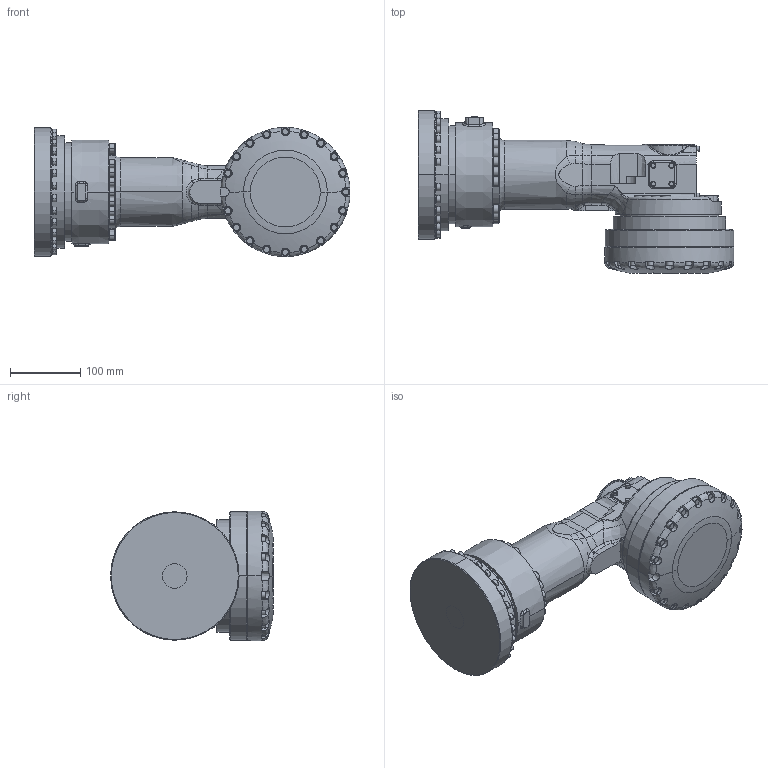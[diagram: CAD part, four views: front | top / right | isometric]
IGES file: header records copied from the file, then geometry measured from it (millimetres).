
Start section:  PTC IGES file: r_axis_gp110_sw1.igs
Global section: file name: r_axis_gp110_sw1.igs; native system: Creo Parametric by Parametric Technology Corporation; preprocessor: 2015030; author: robo228; organization: Unknown; date: 20171226.145602; units: millimetre
Bounding box: 450 x 232 x 184 mm (x, y, z)
Volume: 6109660 mm3; surface area: 394606.5 mm2
Topology: 1 solids, 10 shells, 1234 faces, 2913 edges, 1918 vertices
Faces by surface type: revolution 812, bspline 422
